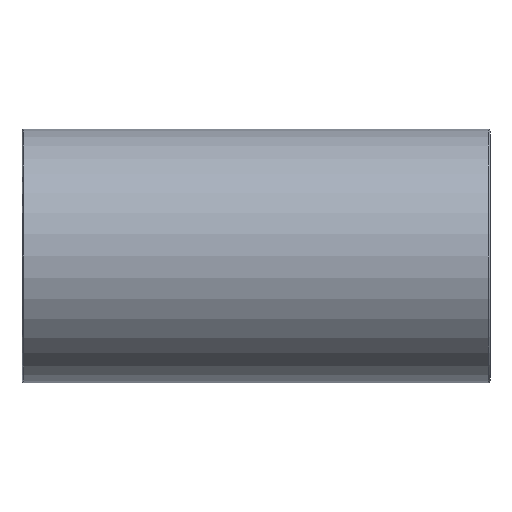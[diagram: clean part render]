
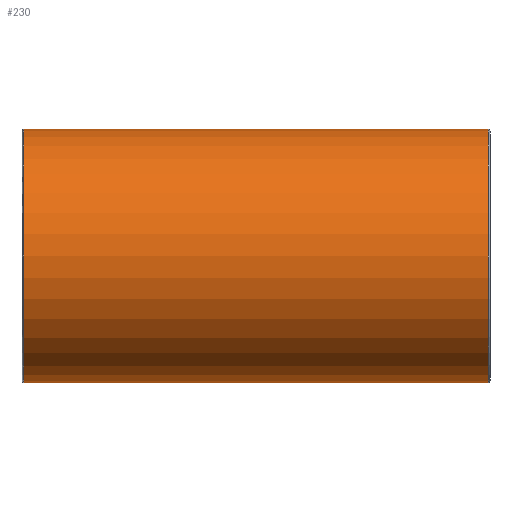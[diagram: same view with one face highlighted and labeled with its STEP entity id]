
A CAD part, front view. The second image highlights one B-rep face of the part: STEP entity #230.
In plain terms, the highlighted cylindrical face has radius 54 mm (diameter 108 mm), a full revolution.
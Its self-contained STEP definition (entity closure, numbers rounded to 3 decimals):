
#26=FACE_BOUND('',#93,.T.);
#27=FACE_BOUND('',#94,.T.);
#46=CIRCLE('',#255,54.);
#47=CIRCLE('',#256,54.);
#63=CYLINDRICAL_SURFACE('',#254,54.);
#72=FACE_OUTER_BOUND('',#92,.T.);
#92=EDGE_LOOP('',(#184));
#93=EDGE_LOOP('',(#185,#186));
#94=EDGE_LOOP('',(#187));
#130=ELLIPSE('',#250,79.427,54.);
#132=ELLIPSE('',#252,79.427,54.);
#136=VERTEX_POINT('',#446);
#137=VERTEX_POINT('',#447);
#138=VERTEX_POINT('',#523);
#139=VERTEX_POINT('',#525);
#157=EDGE_CURVE('',#136,#137,#130,.T.);
#159=EDGE_CURVE('',#137,#136,#132,.T.);
#161=EDGE_CURVE('',#138,#138,#46,.T.);
#162=EDGE_CURVE('',#139,#139,#47,.T.);
#184=ORIENTED_EDGE('',*,*,#161,.F.);
#185=ORIENTED_EDGE('',*,*,#159,.F.);
#186=ORIENTED_EDGE('',*,*,#157,.F.);
#187=ORIENTED_EDGE('',*,*,#162,.F.);
#230=ADVANCED_FACE('',(#72,#26,#27),#63,.T.);
#250=AXIS2_PLACEMENT_3D('',#448,#293,#294);
#252=AXIS2_PLACEMENT_3D('',#520,#297,#298);
#254=AXIS2_PLACEMENT_3D('',#522,#301,#302);
#255=AXIS2_PLACEMENT_3D('',#524,#303,#304);
#256=AXIS2_PLACEMENT_3D('',#526,#305,#306);
#293=DIRECTION('center_axis',(-0.68,0.733,0.));
#294=DIRECTION('ref_axis',(0.733,0.68,0.));
#297=DIRECTION('center_axis',(0.68,0.733,0.));
#298=DIRECTION('ref_axis',(-0.733,0.68,0.));
#301=DIRECTION('center_axis',(1.,0.,0.));
#302=DIRECTION('ref_axis',(0.,1.,0.));
#303=DIRECTION('center_axis',(-1.,0.,0.));
#304=DIRECTION('ref_axis',(0.,-1.,0.));
#305=DIRECTION('center_axis',(1.,0.,0.));
#306=DIRECTION('ref_axis',(0.,-1.,0.));
#446=CARTESIAN_POINT('',(0.,0.,54.));
#447=CARTESIAN_POINT('',(0.,0.,-54.));
#448=CARTESIAN_POINT('Origin',(0.,0.,0.));
#520=CARTESIAN_POINT('Origin',(0.,0.,0.));
#522=CARTESIAN_POINT('Origin',(0.,0.,
0.));
#523=CARTESIAN_POINT('',(-98.651,54.,0.));
#524=CARTESIAN_POINT('Origin',(-98.651,0.,0.));
#525=CARTESIAN_POINT('',(98.651,54.,0.));
#526=CARTESIAN_POINT('Origin',(98.651,0.,0.));
